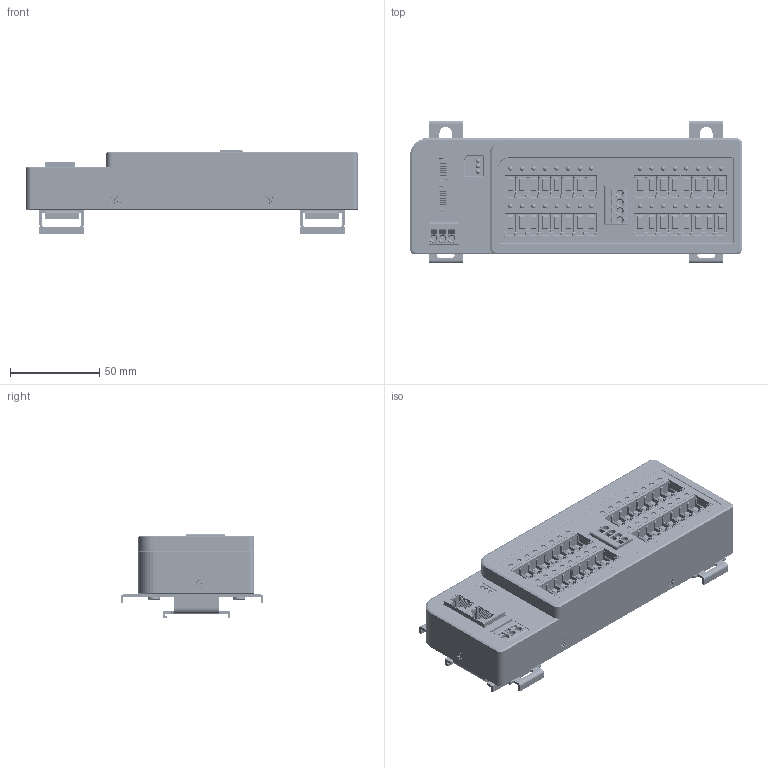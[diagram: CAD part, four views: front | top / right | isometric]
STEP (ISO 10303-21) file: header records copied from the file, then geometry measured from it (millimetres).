
FILE_DESCRIPTION((''),'2;1');
FILE_NAME('MR5201-EA_ASM_21_ASM_1_ASM','2023-08-05T11:51:36',('Administrator'),('yulong DESIGN'),'CREO PARAMETRIC BY PTC INC, 2021023','CREO PARAMETRIC BY PTC INC, 2021023','');
FILE_SCHEMA(('AUTOMOTIVE_DESIGN { 1 0 10303 214 1 1 1 1 }'));
Products named in the file (22): MR5201-EA_SKEL_2_1; FRONT_COVER_MR5201_30_1; REAR_COVER_MR5201_8_1; DIN35_LATCH_L80_5_1_1; DIN35_LATCH_L80_5_2_1; DIN35_LATCH_L80_5_ASM_1_ASM; LIGHT_PIPE_11D7_PWR_2_1; LIGHT_PIPE_10_IO_1_1; SCREW_PH_M4X6_1_1; SCREW_FLAT_M3X8_1_1; SCREW_PH_M2D5X5_1_1; SCREWS_ASM_2_ASM_1_ASM; EK-B403_1; DINKLE_0177-5304_1; DINKLE_0177-5303_1; PIN001_0_1; 24_-400600_1; BOSS-EXTRUDE1_1; 24_-955100_1; HY951180A_0_ASM_1_ASM; HY951180A-ASM_1_ASM_1_ASM; MR5201-EA_ASM_21_ASM_1_ASM
Assembly tree (79 placements, depth 4):
  MR5201-EA_ASM_21_ASM_1_ASM
    MR5201-EA_SKEL_2_1
    FRONT_COVER_MR5201_30_1
    REAR_COVER_MR5201_8_1
    DIN35_LATCH_L80_5_ASM_1_ASM  x2
      DIN35_LATCH_L80_5_1_1
      DIN35_LATCH_L80_5_2_1
    LIGHT_PIPE_11D7_PWR_2_1  x3
    LIGHT_PIPE_10_IO_1_1  x32
    SCREWS_ASM_2_ASM_1_ASM
      SCREW_PH_M4X6_1_1  x4
      SCREW_FLAT_M3X8_1_1  x6
      SCREW_PH_M2D5X5_1_1  x9
    EK-B403_1  x8
    DINKLE_0177-5304_1
    DINKLE_0177-5303_1
    HY951180A-ASM_1_ASM_1_ASM  x2
      PIN001_0_1
      HY951180A_0_ASM_1_ASM
        24_-400600_1
        BOSS-EXTRUDE1_1
        24_-955100_1
Bounding box: 186 x 80 x 47.4 mm (x, y, z)
Volume: 348472.4 mm3; surface area: 143279.8 mm2
Topology: 76 solids, 237 shells, 8358 faces, 24386 edges, 16524 vertices
Faces by surface type: plane 5877, cylinder 1706, cone 320, bspline 215, torus 136, sphere 70, revolution 26, extrusion 8
Entity records: 126282 total; most frequent: CARTESIAN_POINT 35757, ORIENTED_EDGE 15797, DIRECTION 14556, EDGE_CURVE 8885, VERTEX_POINT 6406, VECTOR 5598, LINE 5594, AXIS2_PLACEMENT_3D 4477
